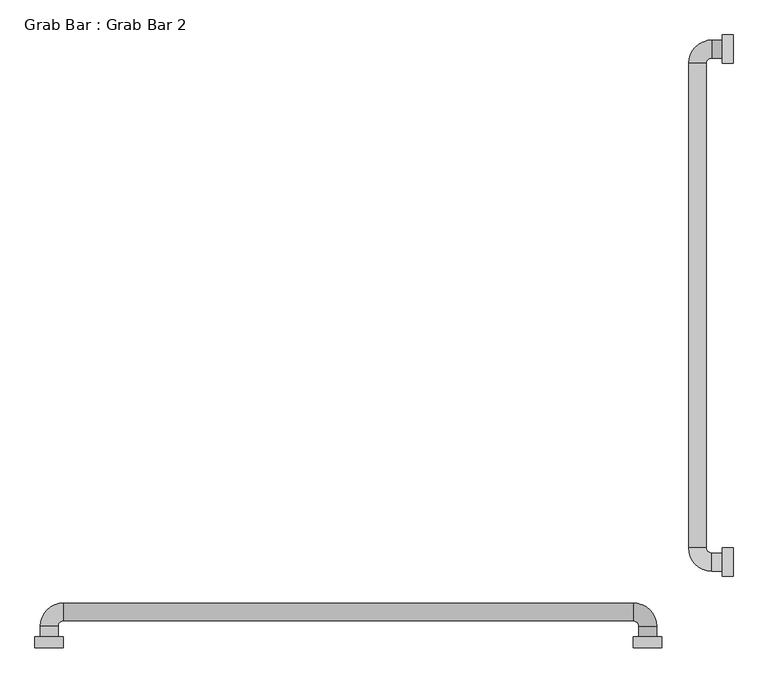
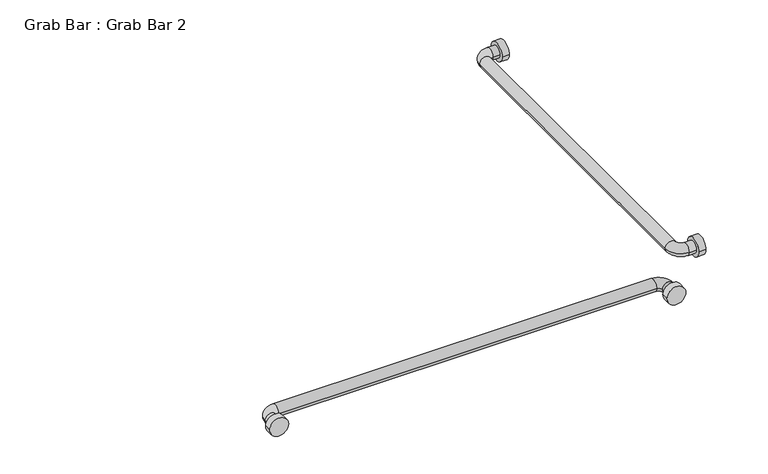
"""IFC4 building model written with IfcOpenShell, lengths in millimetres: proxy geometry, Grab Bar : Grab Bar 2."""

import ifcopenshell
import ifcopenshell.guid

model = None  # the IFC model being written
_history = None  # IfcOwnerHistory: only IFC2X3 demands one
_inside = {}  # id of a spatial element -> (the spatial element, [elements in it])
_under = {}  # id of a project, library or spatial element -> (it, [spatial elements below it])
_declared = {}  # id of a project -> (the project, [libraries it declares])
_typed = {}  # id of a type object -> (the type object, [elements of that type])
_made_of = {}  # id of a material, layer set ... -> (it, [elements and type objects made of it])


def new_model(schema):
    """Start an empty IFC model of exactly this schema.

    Asked for "IFC4X3", IfcOpenShell would pick the latest addendum, in which some entities
    have other attributes; the version numbers below select the first issue.
    IFC2X3 requires an IfcOwnerHistory on every rooted entity: one is made here for all.
    """
    global model, _history
    if schema == "IFC4X3":
        model = ifcopenshell.file(schema_version=(4, 3, 0, 0))
    else:
        model = ifcopenshell.file(schema=schema)
    _inside.clear()
    _under.clear()
    _declared.clear()
    _typed.clear()
    _made_of.clear()
    _history = None
    if model.schema == "IFC2X3":
        org = make("IfcOrganization", Name="unknown")
        user = make(
            "IfcPersonAndOrganization",
            ThePerson=make("IfcPerson", FamilyName="unknown"),
            TheOrganization=org,
        )
        app = make(
            "IfcApplication",
            ApplicationDeveloper=org,
            Version="unknown",
            ApplicationFullName="unknown",
            ApplicationIdentifier="unknown",
        )
        _history = make(
            "IfcOwnerHistory",
            OwningUser=user,
            OwningApplication=app,
            ChangeAction="ADDED",
            CreationDate=0,
        )
    return model


def make(cls, **values):
    """One entity of the class cls with the attributes given. An attribute that is None is left unset."""
    return model.create_entity(
        cls, **{name: value for name, value in values.items() if value is not None}
    )


def rooted(cls, **values):
    """An entity with a GlobalId (a new one), such as an element, a storey or a relation."""
    return make(cls, GlobalId=ifcopenshell.guid.new(), OwnerHistory=_history, **values)


def si_unit(unit_type, name, prefix=None):
    """IfcSIUnit, for example si_unit("LENGTHUNIT", "METRE", prefix="MILLI")."""
    return make("IfcSIUnit", UnitType=unit_type, Prefix=prefix, Name=name)


def assignment(units):
    """IfcUnitAssignment: the units of a project."""
    return None if units is None else make("IfcUnitAssignment", Units=units)


def point(xyz):
    """IfcCartesianPoint."""
    return None if xyz is None else make("IfcCartesianPoint", Coordinates=xyz)


def direction(xyz):
    """IfcDirection."""
    return None if xyz is None else make("IfcDirection", DirectionRatios=xyz)


def frame(location, z_axis=None, x_axis=None):
    """IfcAxis2Placement3D, a coordinate frame: its origin and axes. An axis left out is left unset."""
    return make(
        "IfcAxis2Placement3D",
        Location=point(location),
        Axis=direction(z_axis),
        RefDirection=direction(x_axis),
    )


def frame_2d(location, x_axis=None):
    """IfcAxis2Placement2D, a coordinate frame in the plane: its origin and x axis."""
    return make(
        "IfcAxis2Placement2D", Location=point(location), RefDirection=direction(x_axis)
    )


def origin():
    """The frame at (0, 0, 0) with its axes left unset."""
    return frame((0.0, 0.0, 0.0))


def place(relative_to, where):
    """IfcLocalPlacement: puts the frame where relative to a parent placement (None: the world)."""
    return make(
        "IfcLocalPlacement", PlacementRelTo=relative_to, RelativePlacement=where
    )


def context(
    kind, dimensions, precision=None, world=None, true_north=None, identifier=None
):
    """IfcGeometricRepresentationContext, for example the 3D "Model" context."""
    return make(
        "IfcGeometricRepresentationContext",
        ContextIdentifier=identifier,
        ContextType=kind,
        CoordinateSpaceDimension=dimensions,
        Precision=precision,
        WorldCoordinateSystem=world,
        TrueNorth=true_north,
    )


def project(units=None, contexts=None):
    """IfcProject with its units and contexts."""
    return rooted(
        "IfcProject",
        Name="project",
        RepresentationContexts=contexts,
        UnitsInContext=assignment(units),
    )


def spatial(cls, under=None, at=None, **own):
    """A site, building, storey or space (cls), placed at a placement, below another one or the project."""
    s = rooted(cls, ObjectPlacement=at, **own)
    if under is not None:
        _under.setdefault(under.id(), (under, []))[1].append(s)
    return s


def circle_curve(where, radius):
    """IfcCircle in the frame where."""
    return make("IfcCircle", Position=where, Radius=radius)


def ellipse_curve(where, semi_axis1, semi_axis2):
    """IfcEllipse in the frame where."""
    return make(
        "IfcEllipse", Position=where, SemiAxis1=semi_axis1, SemiAxis2=semi_axis2
    )


def trimmed(basis, trim1, trim2, sense, master):
    """IfcTrimmedCurve: the piece of a basis curve between two trims."""
    return make(
        "IfcTrimmedCurve",
        BasisCurve=basis,
        Trim1=trim1,
        Trim2=trim2,
        SenseAgreement=sense,
        MasterRepresentation=master,
    )


def segment(curve, same_sense, transition):
    """IfcCompositeCurveSegment."""
    return make(
        "IfcCompositeCurveSegment",
        Transition=transition,
        SameSense=same_sense,
        ParentCurve=curve,
    )


def composite_curve(segments, self_intersect=None):
    """IfcCompositeCurve: segments joined end to end."""
    return make("IfcCompositeCurve", Segments=segments, SelfIntersect=self_intersect)


def outline(outer, holes=None, kind="AREA"):
    """IfcArbitraryClosedProfileDef: a profile drawn as a closed curve; with holes, ...WithVoids."""
    if holes is None:
        return make("IfcArbitraryClosedProfileDef", ProfileType=kind, OuterCurve=outer)
    return make(
        "IfcArbitraryProfileDefWithVoids",
        ProfileType=kind,
        OuterCurve=outer,
        InnerCurves=holes,
    )


def extrude(swept, where, along, depth):
    """IfcExtrudedAreaSolid: the profile swept, set in the frame where, extruded along a direction by depth."""
    return make(
        "IfcExtrudedAreaSolid",
        SweptArea=swept,
        Position=where,
        ExtrudedDirection=direction(along),
        Depth=depth,
    )


def shape(context_of_items, identifier, shape_type, items):
    """IfcShapeRepresentation: the items that make up one representation, for example the "Body"."""
    return make(
        "IfcShapeRepresentation",
        ContextOfItems=context_of_items,
        RepresentationIdentifier=identifier,
        RepresentationType=shape_type,
        Items=items,
    )


def source(mapping_origin, context_of_items, identifier, shape_type, items):
    """IfcRepresentationMap: a shape defined once, which mapped items show again and again."""
    return make(
        "IfcRepresentationMap",
        MappingOrigin=mapping_origin,
        MappedRepresentation=shape(context_of_items, identifier, shape_type, items),
    )


def transform(
    local_origin,
    x_axis=None,
    y_axis=None,
    z_axis=None,
    scale=None,
    scale2=None,
    scale3=None,
    uniform=True,
):
    """IfcCartesianTransformationOperator3D, or its non-uniform kind. x_axis, y_axis, z_axis: its Axis1, 2, 3."""
    if uniform:
        return make(
            "IfcCartesianTransformationOperator3D",
            Axis1=direction(x_axis),
            Axis2=direction(y_axis),
            LocalOrigin=point(local_origin),
            Scale=scale,
            Axis3=direction(z_axis),
        )
    return make(
        "IfcCartesianTransformationOperator3DnonUniform",
        Axis1=direction(x_axis),
        Axis2=direction(y_axis),
        LocalOrigin=point(local_origin),
        Scale=scale,
        Axis3=direction(z_axis),
        Scale2=scale2,
        Scale3=scale3,
    )


def mapped(mapping_source, mapping_target):
    """IfcMappedItem: shows the shape of a source again, moved by a transform."""
    return make(
        "IfcMappedItem", MappingSource=mapping_source, MappingTarget=mapping_target
    )


def made_of(thing, what):
    """Note that an element or type object is made of a material, layer set ...; save() writes the relation."""
    if what is not None:
        _made_of.setdefault(what.id(), (what, []))[1].append(thing)
    return thing


def element(
    cls,
    number,
    at=None,
    inside=None,
    cuts=None,
    type_object=None,
    material=None,
    context=None,
    identifier="Body",
    shape_type=None,
    held_by="IfcProductDefinitionShape",
    body=None,
    shapes=None,
    **own,
):
    """One element of the class cls, such as IfcWall. Its Tag is "e" and its number.

    at: its placement. inside: the storey or other place that contains it. cuts: it is an
    opening in that element (IfcRelVoidsElement). A single representation is given by context,
    identifier, shape_type and body (its items); several are given by shapes. held_by: the class
    of the entity that holds the representations. save() writes the other relations.
    """
    e = rooted(cls, Tag="e%d" % number, ObjectPlacement=at, **own)
    if body is not None:
        shapes = [shape(context, identifier, shape_type, body)]
    if shapes is not None:
        e.Representation = make(held_by, Representations=shapes)
    if inside is not None:
        _inside.setdefault(inside.id(), (inside, []))[1].append(e)
    if cuts is not None:
        rooted(
            "IfcRelVoidsElement", RelatingBuildingElement=cuts, RelatedOpeningElement=e
        )
    if type_object is not None:
        _typed.setdefault(type_object.id(), (type_object, []))[1].append(e)
    return made_of(e, material)


def aggregate(whole, parts):
    """IfcRelAggregates: a whole, such as a stair, and the parts it consists of."""
    return rooted("IfcRelAggregates", RelatingObject=whole, RelatedObjects=parts)


def save(model, path):
    """Write the relations noted so far, then the file.

    IfcRelAggregates (storeys below a building ...), IfcRelContainedInSpatialStructure (elements
    in a storey), IfcRelDefinesByType, IfcRelAssociatesMaterial and IfcRelDeclares: one each for
    every whole, place, type object, material and project.
    """
    for whole, parts in _under.values():
        aggregate(whole, parts)
    for where, things in _inside.values():
        rooted(
            "IfcRelContainedInSpatialStructure",
            RelatedElements=things,
            RelatingStructure=where,
        )
    for kind, things in _typed.values():
        rooted("IfcRelDefinesByType", RelatedObjects=things, RelatingType=kind)
    for what, things in _made_of.values():
        rooted("IfcRelAssociatesMaterial", RelatedObjects=things, RelatingMaterial=what)
    for by, libraries in _declared.values():
        rooted("IfcRelDeclares", RelatingContext=by, RelatedDefinitions=libraries)
    model.write(path)


def plane_surface(at):
    """IfcPlane: the flat surface through the origin of the frame at, square to its z axis."""
    return make("IfcPlane", Position=at)


def cylinder_surface(at, radius):
    """IfcCylindricalSurface: all points at the distance radius from the z axis of the frame at."""
    return make("IfcCylindricalSurface", Position=at, Radius=radius)


def revolved_surface(curve, axis_point, axis_direction):
    """IfcSurfaceOfRevolution: the curve turned about the line through axis_point along axis_direction."""
    return make(
        "IfcSurfaceOfRevolution",
        SweptCurve=make("IfcArbitraryOpenProfileDef", ProfileType="CURVE", Curve=curve),
        AxisPosition=make("IfcAxis1Placement", Location=point(axis_point), Axis=direction(axis_direction)),
    )


def advanced_brep(points, edges, surfaces, faces):
    """IfcAdvancedBrep: a solid bounded by faces that lie on surfaces and meet in shared edges.

    An edge is (start, end): straight between two places in points (the first is 0);
    or (start, end, curve); or (start, end, curve, False) where it runs against its curve.
    A face is (place in surfaces, loops), or (place, loops, False) where it looks against
    its surface's normal. A loop lists edges by number (the first is 1), with a minus sign
    where the edge is run from its end to its start. The first loop is the outer one.
    """
    corners = [point(p) for p in points]
    vertices = [make("IfcVertexPoint", VertexGeometry=c) for c in corners]
    made = []
    for start, end, *more in edges:
        made.append(
            make(
                "IfcEdgeCurve",
                EdgeStart=vertices[start],
                EdgeEnd=vertices[end],
                EdgeGeometry=more[0] if more else make("IfcPolyline", Points=[corners[start], corners[end]]),
                SameSense=more[1] if len(more) > 1 else True,
            )
        )
    hull = []
    for where, loops, *sense in faces:
        bounds = []
        for j, loop in enumerate(loops):
            ring = [make("IfcOrientedEdge", EdgeElement=made[abs(k) - 1], Orientation=k > 0) for k in loop]
            bounds.append(
                make(
                    "IfcFaceOuterBound" if j == 0 else "IfcFaceBound",
                    Bound=make("IfcEdgeLoop", EdgeList=ring),
                    Orientation=True,
                )
            )
        hull.append(make("IfcAdvancedFace", Bounds=bounds, FaceSurface=surfaces[where], SameSense=sense[0] if sense else True))
    return make("IfcAdvancedBrep", Outer=make("IfcClosedShell", CfsFaces=hull))


def grab_bar_grab_bar_2_6b204c29(model_context):
    return source(origin(), model_context, "Body", "SolidModel", [
        extrude(outline(composite_curve([segment(trimmed(circle_curve(frame_2d((152.4, 914.4)), 25.4), [point((127.0, 914.4))], [point((177.8, 914.4))], False, "CARTESIAN"), True, "CONTINUOUS"), segment(trimmed(circle_curve(frame_2d((152.4, 914.4)), 25.4), [point((177.8, 914.4))], [point((127.0, 914.4))], False, "CARTESIAN"), True, "CONTINUOUS")], self_intersect=False)), frame((-19.05, 0.0, 0.0), z_axis=(1.0, 0.0, 0.0), x_axis=(0.0, 1.0, 0.0)), (0.0, 0.0, 1.0), 19.05),
        extrude(outline(composite_curve([segment(trimmed(circle_curve(frame_2d((1066.8, 914.4)), 25.4), [point((1041.4, 914.4))], [point((1092.2, 914.4))], False, "CARTESIAN"), True, "CONTINUOUS"), segment(trimmed(circle_curve(frame_2d((1066.8, 914.4)), 25.4), [point((1092.2, 914.4))], [point((1041.4, 914.4))], False, "CARTESIAN"), True, "CONTINUOUS")], self_intersect=False)), frame((-19.05, 0.0, 0.0), z_axis=(1.0, 0.0, 0.0), x_axis=(0.0, 1.0, 0.0)), (0.0, 0.0, 1.0), 19.05),
        extrude(outline(composite_curve([segment(trimmed(circle_curve(frame_2d((914.4, -152.4)), 25.4), [point((914.4, -177.8))], [point((914.4, -127.0))], False, "CARTESIAN"), True, "CONTINUOUS"), segment(trimmed(circle_curve(frame_2d((914.4, -152.4)), 25.4), [point((914.4, -127.0))], [point((914.4, -177.8))], False, "CARTESIAN"), True, "CONTINUOUS")], self_intersect=False)), frame((0.0, 0.0, 0.0), z_axis=(0.0, 1.0, 0.0), x_axis=(0.0, 0.0, 1.0)), (0.0, 0.0, 1.0), 19.05),
        extrude(outline(composite_curve([segment(trimmed(circle_curve(frame_2d((914.4, -1219.2)), 25.4), [point((914.4, -1244.6))], [point((914.4, -1193.8))], False, "CARTESIAN"), True, "CONTINUOUS"), segment(trimmed(circle_curve(frame_2d((914.4, -1219.2)), 25.4), [point((914.4, -1193.8))], [point((914.4, -1244.6))], False, "CARTESIAN"), True, "CONTINUOUS")], self_intersect=False)), frame((0.0, 0.0, 0.0), z_axis=(0.0, 1.0, 0.0), x_axis=(0.0, 0.0, 1.0)), (0.0, 0.0, 1.0), 19.05),
        advanced_brep(
        [(-19.05, 168.275, 914.4), (-19.05, 136.525, 914.4), (-38.1, 168.275, 914.4), (-38.1, 136.525, 914.4), (-79.375, 177.8, 914.4), (-47.625, 177.8, 914.4), (-47.625, 1041.4, 914.4), (-79.375, 1041.4, 914.4), (-38.1, 1082.675, 914.4), (-38.1, 1050.925, 914.4), (-19.05, 1050.925, 914.4), (-19.05, 1082.675, 914.4)],
        [
            (0, 1, circle_curve(frame((-19.05, 152.4, 914.4), z_axis=(1.0, 0.0, 0.0), x_axis=(0.0, -1.0, 0.0)), 15.875)),
            (1, 0, circle_curve(frame((-19.05, 152.4, 914.4), z_axis=(1.0, 0.0, 0.0), x_axis=(0.0, -1.0, 0.0)), 15.875)),
            (0, 2),
            (2, 3, circle_curve(frame((-38.1, 152.4, 914.4), z_axis=(1.0, 0.0, 0.0), x_axis=(0.0, -1.0, 0.0)), 15.875)),
            (3, 1),
            (3, 2, circle_curve(frame((-38.1, 152.4, 914.4), z_axis=(1.0, 0.0, 0.0), x_axis=(0.0, -1.0, 0.0)), 15.875)),
            (4, 3, circle_curve(frame((-38.1, 177.8, 914.4), z_axis=(0.0, 0.0, 1.0), x_axis=(0.0, -1.0, 0.0)), 41.275)),
            (2, 5, circle_curve(frame((-38.1, 177.8, 914.4), z_axis=(0.0, 0.0, -1.0), x_axis=(0.0, -1.0, 0.0)), 9.525)),
            (5, 4, circle_curve(frame((-63.5, 177.8, 914.4), z_axis=(0.0, -1.0, 0.0), x_axis=(-1.0, 0.0, 0.0)), 15.875)),
            (4, 5, circle_curve(frame((-63.5, 177.8, 914.4), z_axis=(0.0, -1.0, 0.0), x_axis=(-1.0, 0.0, 0.0)), 15.875)),
            (5, 6),
            (6, 7, circle_curve(frame((-63.5, 1041.4, 914.4), z_axis=(0.0, -1.0, 0.0), x_axis=(-1.0, 0.0, 0.0)), 15.875)),
            (7, 4),
            (7, 6, circle_curve(frame((-63.5, 1041.4, 914.4), z_axis=(0.0, -1.0, 0.0), x_axis=(-1.0, 0.0, 0.0)), 15.875)),
            (8, 7, circle_curve(frame((-38.1, 1041.4, 914.4), z_axis=(0.0, 0.0, 1.0), x_axis=(-1.0, 0.0, 0.0)), 41.275)),
            (6, 9, circle_curve(frame((-38.1, 1041.4, 914.4), z_axis=(0.0, 0.0, -1.0), x_axis=(-1.0, 0.0, 0.0)), 9.525)),
            (9, 8, circle_curve(frame((-38.1, 1066.8, 914.4), z_axis=(-1.0, 0.0, 0.0), x_axis=(0.0, 1.0, 0.0)), 15.875)),
            (8, 9, circle_curve(frame((-38.1, 1066.8, 914.4), z_axis=(-1.0, 0.0, 0.0), x_axis=(0.0, 1.0, 0.0)), 15.875)),
            (10, 11, circle_curve(frame((-19.05, 1066.8, 914.4), z_axis=(1.0, 0.0, 0.0), x_axis=(0.0, 1.0, 0.0)), 15.875)),
            (11, 10, circle_curve(frame((-19.05, 1066.8, 914.4), z_axis=(1.0, 0.0, 0.0), x_axis=(0.0, 1.0, 0.0)), 15.875)),
            (9, 10),
            (11, 8),
        ],
        [
            plane_surface(frame((-19.05, 152.4, -930.275), z_axis=(1.0, 0.0, 0.0), x_axis=(0.0, -1.0, 0.0))),
            cylinder_surface(frame((-19.05, 152.4, 914.4), z_axis=(1.0, 0.0, 0.0), x_axis=(0.0, -1.0, 0.0)), 15.875),
            revolved_surface(trimmed(ellipse_curve(frame((-38.1, 152.4, 914.4), z_axis=(1.0, 0.0, 0.0), x_axis=(0.0, -1.0, 0.0)), 15.875, 15.875), [point((-38.1, 168.275, 914.4))], [point((-38.1, 136.525, 914.4))], True, "CARTESIAN"), (-38.1, 177.8, 0.0), (0.0, 0.0, -1.0)),
            revolved_surface(trimmed(ellipse_curve(frame((-38.1, 152.4, 914.4), z_axis=(1.0, 0.0, 0.0), x_axis=(0.0, -1.0, 0.0)), 15.875, 15.875), [point((-38.1, 136.525, 914.4))], [point((-38.1, 168.275, 914.4))], True, "CARTESIAN"), (-38.1, 177.8, 0.0), (0.0, 0.0, -1.0)),
            cylinder_surface(frame((-63.5, 177.8, 914.4), z_axis=(0.0, -1.0, 0.0), x_axis=(-1.0, 0.0, 0.0)), 15.875),
            revolved_surface(trimmed(ellipse_curve(frame((-63.5, 1041.4, 914.4), z_axis=(0.0, -1.0, 0.0), x_axis=(-1.0, 0.0, 0.0)), 15.875, 15.875), [point((-47.625, 1041.4, 914.4))], [point((-79.375, 1041.4, 914.4))], True, "CARTESIAN"), (-38.1, 1041.4, 0.0), (0.0, 0.0, -1.0)),
            revolved_surface(trimmed(ellipse_curve(frame((-63.5, 1041.4, 914.4), z_axis=(0.0, -1.0, 0.0), x_axis=(-1.0, 0.0, 0.0)), 15.875, 15.875), [point((-79.375, 1041.4, 914.4))], [point((-47.625, 1041.4, 914.4))], True, "CARTESIAN"), (-38.1, 1041.4, 0.0), (0.0, 0.0, -1.0)),
            plane_surface(frame((-19.05, 1066.8, -930.275), z_axis=(1.0, 0.0, 0.0), x_axis=(0.0, 1.0, 0.0))),
            cylinder_surface(frame((-38.1, 1066.8, 914.4), z_axis=(-1.0, 0.0, 0.0), x_axis=(0.0, 1.0, 0.0)), 15.875),
        ],
        [
            (0, [[1, 2]]),
            (1, [[-1, 3, 4, 5]]),
            (1, [[-2, -5, 6, -3]]),
            (2, [[7, -4, 8, 9]]),
            (3, [[-8, -6, -7, 10]]),
            (4, [[-9, 11, 12, 13]]),
            (4, [[-10, -13, 14, -11]]),
            (5, [[15, -12, 16, 17]]),
            (6, [[-16, -14, -15, 18]]),
            (7, [[19, 20]]),
            (8, [[-17, 21, -20, 22]]),
            (8, [[-18, -22, -19, -21]]),
        ],
    ),
        advanced_brep(
        [(-1203.325, 19.05, 914.4), (-1235.075, 19.05, 914.4), (-1203.325, 38.1, 914.4), (-1235.075, 38.1, 914.4), (-1193.8, 79.375, 914.4), (-1193.8, 47.625, 914.4), (-177.8, 47.625, 914.4), (-177.8, 79.375, 914.4), (-136.525, 38.1, 914.4), (-168.275, 38.1, 914.4), (-168.275, 19.05, 914.4), (-136.525, 19.05, 914.4)],
        [
            (0, 1, circle_curve(frame((-1219.2, 19.05, 914.4), z_axis=(0.0, -1.0, 0.0), x_axis=(-1.0, 0.0, 0.0)), 15.875)),
            (1, 0, circle_curve(frame((-1219.2, 19.05, 914.4), z_axis=(0.0, -1.0, 0.0), x_axis=(-1.0, 0.0, 0.0)), 15.875)),
            (0, 2),
            (2, 3, circle_curve(frame((-1219.2, 38.1, 914.4), z_axis=(0.0, -1.0, 0.0), x_axis=(-1.0, 0.0, 0.0)), 15.875)),
            (3, 1),
            (3, 2, circle_curve(frame((-1219.2, 38.1, 914.4), z_axis=(0.0, -1.0, 0.0), x_axis=(-1.0, 0.0, 0.0)), 15.875)),
            (4, 3, circle_curve(frame((-1193.8, 38.1, 914.4), z_axis=(0.0, 0.0, 1.0), x_axis=(-1.0, 0.0, 0.0)), 41.275)),
            (2, 5, circle_curve(frame((-1193.8, 38.1, 914.4), z_axis=(0.0, 0.0, -1.0), x_axis=(-1.0, 0.0, 0.0)), 9.525)),
            (5, 4, circle_curve(frame((-1193.8, 63.5, 914.4), z_axis=(-1.0, 0.0, 0.0), x_axis=(0.0, 1.0, 0.0)), 15.875)),
            (4, 5, circle_curve(frame((-1193.8, 63.5, 914.4), z_axis=(-1.0, 0.0, 0.0), x_axis=(0.0, 1.0, 0.0)), 15.875)),
            (5, 6),
            (6, 7, circle_curve(frame((-177.8, 63.5, 914.4), z_axis=(-1.0, 0.0, 0.0), x_axis=(0.0, 1.0, 0.0)), 15.875)),
            (7, 4),
            (7, 6, circle_curve(frame((-177.8, 63.5, 914.4), z_axis=(-1.0, 0.0, 0.0), x_axis=(0.0, 1.0, 0.0)), 15.875)),
            (8, 7, circle_curve(frame((-177.8, 38.1, 914.4), z_axis=(0.0, 0.0, 1.0), x_axis=(0.0, 1.0, 0.0)), 41.275)),
            (6, 9, circle_curve(frame((-177.8, 38.1, 914.4), z_axis=(0.0, 0.0, -1.0), x_axis=(0.0, 1.0, 0.0)), 9.525)),
            (9, 8, circle_curve(frame((-152.4, 38.1, 914.4), z_axis=(0.0, 1.0, 0.0), x_axis=(1.0, 0.0, 0.0)), 15.875)),
            (8, 9, circle_curve(frame((-152.4, 38.1, 914.4), z_axis=(0.0, 1.0, 0.0), x_axis=(1.0, 0.0, 0.0)), 15.875)),
            (10, 11, circle_curve(frame((-152.4, 19.05, 914.4), z_axis=(0.0, -1.0, 0.0), x_axis=(1.0, 0.0, 0.0)), 15.875)),
            (11, 10, circle_curve(frame((-152.4, 19.05, 914.4), z_axis=(0.0, -1.0, 0.0), x_axis=(1.0, 0.0, 0.0)), 15.875)),
            (9, 10),
            (11, 8),
        ],
        [
            plane_surface(frame((-2149.475, 19.05, 0.0), z_axis=(0.0, -1.0, 0.0), x_axis=(0.0, 0.0, 1.0))),
            cylinder_surface(frame((-1219.2, 19.05, 914.4), z_axis=(0.0, -1.0, 0.0), x_axis=(-1.0, 0.0, 0.0)), 15.875),
            revolved_surface(trimmed(ellipse_curve(frame((-1219.2, 38.1, 914.4), z_axis=(0.0, -1.0, 0.0), x_axis=(-1.0, 0.0, 0.0)), 15.875, 15.875), [point((-1203.325, 38.1, 914.4))], [point((-1235.075, 38.1, 914.4))], True, "CARTESIAN"), (-1193.8, 38.1, 0.0), (0.0, 0.0, -1.0)),
            revolved_surface(trimmed(ellipse_curve(frame((-1219.2, 38.1, 914.4), z_axis=(0.0, -1.0, 0.0), x_axis=(-1.0, 0.0, 0.0)), 15.875, 15.875), [point((-1235.075, 38.1, 914.4))], [point((-1203.325, 38.1, 914.4))], True, "CARTESIAN"), (-1193.8, 38.1, 0.0), (0.0, 0.0, -1.0)),
            cylinder_surface(frame((-1193.8, 63.5, 914.4), z_axis=(-1.0, 0.0, 0.0), x_axis=(0.0, 1.0, 0.0)), 15.875),
            revolved_surface(trimmed(ellipse_curve(frame((-177.8, 63.5, 914.4), z_axis=(-1.0, 0.0, 0.0), x_axis=(0.0, 1.0, 0.0)), 15.875, 15.875), [point((-177.8, 47.625, 914.4))], [point((-177.8, 79.375, 914.4))], True, "CARTESIAN"), (-177.8, 38.1, 0.0), (0.0, 0.0, -1.0)),
            revolved_surface(trimmed(ellipse_curve(frame((-177.8, 63.5, 914.4), z_axis=(-1.0, 0.0, 0.0), x_axis=(0.0, 1.0, 0.0)), 15.875, 15.875), [point((-177.8, 79.375, 914.4))], [point((-177.8, 47.625, 914.4))], True, "CARTESIAN"), (-177.8, 38.1, 0.0), (0.0, 0.0, -1.0)),
            plane_surface(frame((-1082.675, 19.05, 0.0), z_axis=(0.0, -1.0, 0.0), x_axis=(0.0, 0.0, -1.0))),
            cylinder_surface(frame((-152.4, 38.1, 914.4), z_axis=(0.0, 1.0, 0.0), x_axis=(1.0, 0.0, 0.0)), 15.875),
        ],
        [
            (0, [[1, 2]]),
            (1, [[-1, 3, 4, 5]]),
            (1, [[-2, -5, 6, -3]]),
            (2, [[7, -4, 8, 9]]),
            (3, [[-8, -6, -7, 10]]),
            (4, [[-9, 11, 12, 13]]),
            (4, [[-10, -13, 14, -11]]),
            (5, [[15, -12, 16, 17]]),
            (6, [[-16, -14, -15, 18]]),
            (7, [[19, 20]]),
            (8, [[-17, 21, -20, 22]]),
            (8, [[-18, -22, -19, -21]]),
        ],
    ),
    ])


if __name__ == "__main__":
    model = new_model("IFC4")
    model_context = context("Model", 3, world=origin())
    ifc_project = project(units=[si_unit("LENGTHUNIT", "METRE", prefix="MILLI")], contexts=[model_context])
    site = spatial("IfcSite", under=ifc_project)
    building = spatial("IfcBuilding", under=site)
    placement = place(None, origin())
    grab_bar_grab_bar_2_shape = grab_bar_grab_bar_2_6b204c29(model_context)
    element("IfcBuildingElementProxy", 1, Name="Grab Bar : Grab Bar 2", ObjectType="Grab Bar : Grab Bar 2", at=placement, inside=building, context=model_context, shape_type="MappedRepresentation", body=[
        mapped(grab_bar_grab_bar_2_shape, transform((0.0, 0.0, 0.0), x_axis=(1.0, 0.0, 0.0), y_axis=(0.0, 1.0, 0.0), z_axis=(0.0, 0.0, 1.0))),
    ])
    save(model, "model.ifc")
